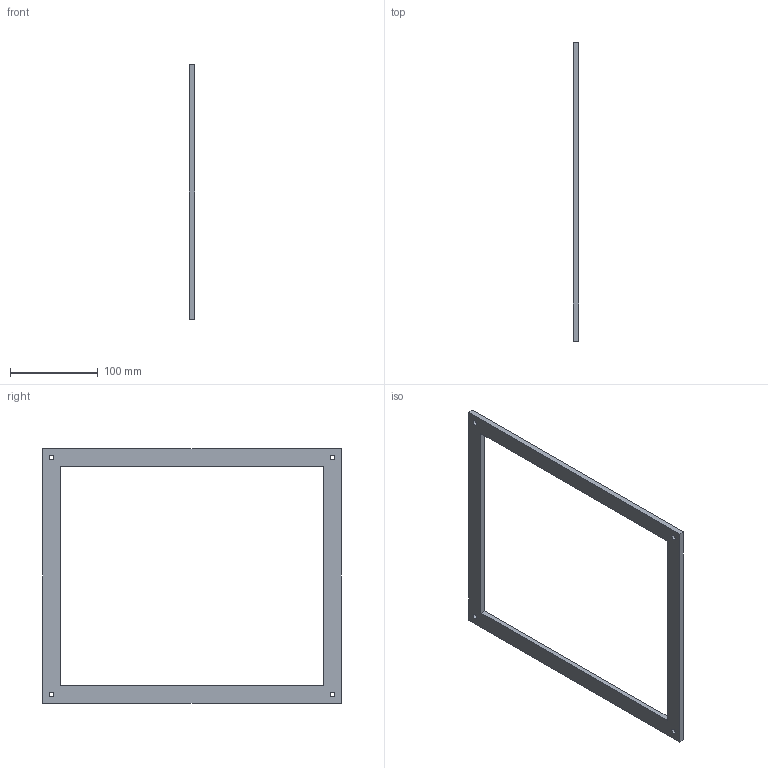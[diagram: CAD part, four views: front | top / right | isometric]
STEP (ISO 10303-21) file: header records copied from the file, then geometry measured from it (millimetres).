
FILE_DESCRIPTION(('Open CASCADE Model'),'2;1');
FILE_NAME('Open CASCADE Shape Model','2026-10-16T18:03:45',('Author'),( 'Open CASCADE'),'Open CASCADE STEP processor 7.8','Open CASCADE 7.8' ,'Unknown');
FILE_SCHEMA(('AUTOMOTIVE_DESIGN { 1 0 10303 214 1 1 1 1 }'));
Length unit declared in the file: millimetre
Products named in the file (1): Open CASCADE STEP translator 7.8 21
Bounding box: 6 x 340 x 290 mm (x, y, z)
Volume: 141029.8 mm3; surface area: 61584.6 mm2
Topology: 1 solids, 1 shells, 14 faces, 36 edges, 24 vertices
Faces by surface type: plane 10, cylinder 4
Full cylindrical faces by diameter (mm): 5.5 x4
Entity records: 950 total; most frequent: CARTESIAN_POINT 195, DIRECTION 138, LINE 92, VECTOR 92, ORIENTED_EDGE 72, PCURVE 72, DEFINITIONAL_REPRESENTATION 72, EDGE_CURVE 36
